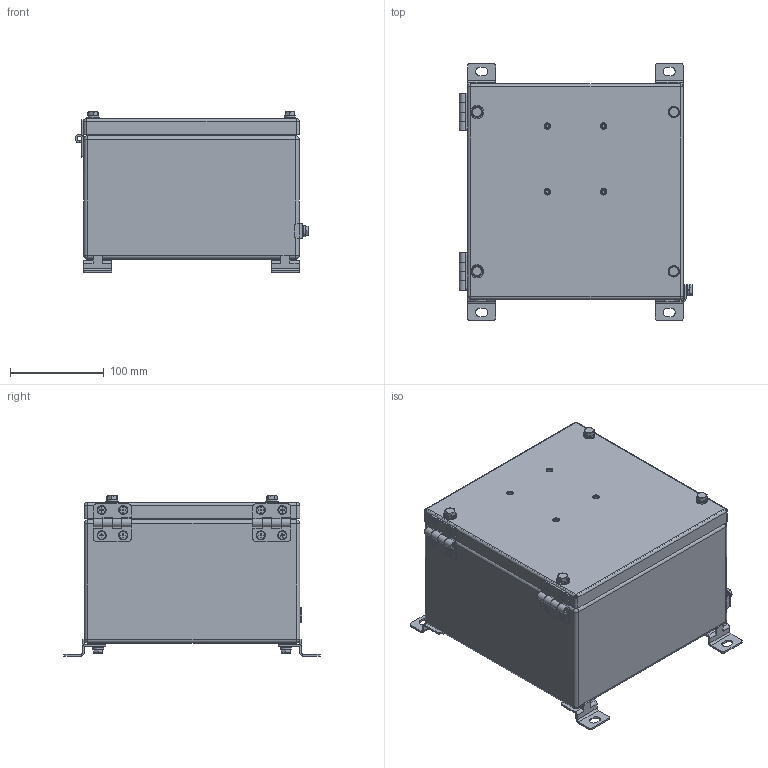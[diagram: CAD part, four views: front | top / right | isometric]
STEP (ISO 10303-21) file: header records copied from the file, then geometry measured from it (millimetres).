
FILE_DESCRIPTION((''),'2;1');
FILE_NAME('\\192.168.5.25\cortem_klient\INVENTOR БАЗА МОДЕЛЕЙ\Актуальная база моделей для отдела продаж\КСРВ-М\КСРВ-М232315_М3.stp','2019-04-09T14:37:30',('A.S.Kozlov'),(''),'Autodesk Inventor 2012','Autodesk Inventor 2012','');
FILE_SCHEMA(('CONFIG_CONTROL_DESIGN'));
Length unit declared in the file: millimetre
Products named in the file (1): КСРВ-(параметрическая модель)_Внешний контур_1
Bounding box: 249.19 x 274 x 171.2 mm (x, y, z)
Surface area: 346440.8 mm2 (no closed solid volume)
Topology: 0 solids, 77 shells, 386 faces, 1370 edges, 979 vertices
Faces by surface type: plane 225, cylinder 145, sphere 12, cone 4
Full cylindrical faces by diameter (mm): 5 x4, 5.9 x4, 9 x2, 10 x2, 12 x12, 14 x2
Entity records: 15153 total; most frequent: CARTESIAN_POINT 2847, DIRECTION 2534, ORIENTED_EDGE 1994, EDGE_CURVE 1325, VERTEX_POINT 967, AXIS2_PLACEMENT_3D 906, VECTOR 722, LINE 722
